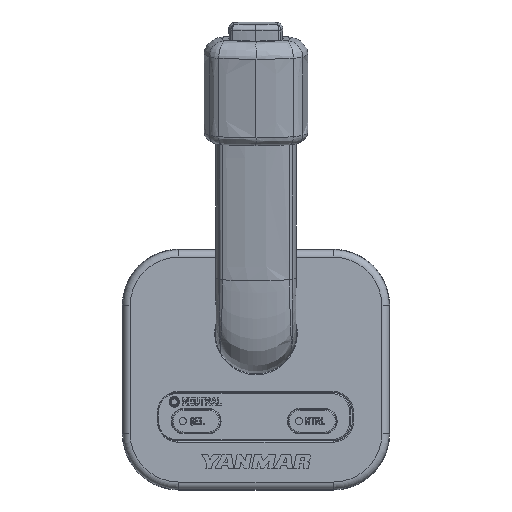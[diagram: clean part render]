
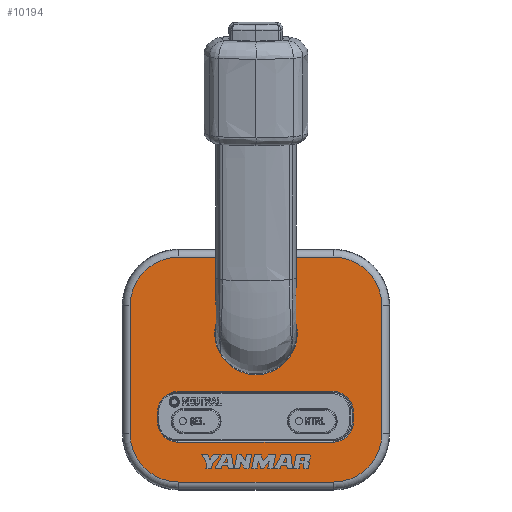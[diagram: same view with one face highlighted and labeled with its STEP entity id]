
A CAD part, top view. The second image highlights one B-rep face of the part: STEP entity #10194.
In plain terms, the highlighted planar face has unit normal (0, 0, 1).
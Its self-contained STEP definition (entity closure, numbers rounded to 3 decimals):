
#9962=CARTESIAN_POINT('',(-32.,26.5,10.));
#9963=DIRECTION('',(0.,0.,-1.));
#9964=DIRECTION('',(-1.,0.,0.));
#9965=AXIS2_PLACEMENT_3D('',#9962,#9963,#9964);
#9967=DIRECTION('',(1.,0.,0.));
#9968=VECTOR('',#9967,64.);
#9969=CARTESIAN_POINT('',(-32.,46.5,10.));
#9970=LINE('',#9969,#9968);
#9971=CARTESIAN_POINT('',(32.,26.5,10.));
#9972=DIRECTION('',(0.,0.,-1.));
#9973=DIRECTION('',(0.,1.,0.));
#9974=AXIS2_PLACEMENT_3D('',#9971,#9972,#9973);
#9976=DIRECTION('',(0.,-1.,0.));
#9977=VECTOR('',#9976,53.);
#9978=CARTESIAN_POINT('',(52.,26.5,10.));
#9979=LINE('',#9978,#9977);
#9980=CARTESIAN_POINT('',(32.,-26.5,10.));
#9981=DIRECTION('',(0.,0.,-1.));
#9982=DIRECTION('',(1.,0.,0.));
#9983=AXIS2_PLACEMENT_3D('',#9980,#9981,#9982);
#9985=DIRECTION('',(-1.,0.,0.));
#9986=VECTOR('',#9985,64.);
#9987=CARTESIAN_POINT('',(32.,-46.5,10.));
#9988=LINE('',#9987,#9986);
#9989=CARTESIAN_POINT('',(-32.,-26.5,10.));
#9990=DIRECTION('',(0.,0.,-1.));
#9991=DIRECTION('',(0.,-1.,0.));
#9992=AXIS2_PLACEMENT_3D('',#9989,#9990,#9991);
#9994=DIRECTION('',(0.,1.,0.));
#9995=VECTOR('',#9994,53.);
#9996=CARTESIAN_POINT('',(-52.,-26.5,10.));
#9997=LINE('',#9996,#9995);
#9998=CARTESIAN_POINT('',(31.77,-17.5,10.));
#9999=DIRECTION('',(0.,0.,1.));
#10000=DIRECTION('',(1.,0.,0.));
#10001=AXIS2_PLACEMENT_3D('',#9998,#9999,#10000);
#10003=DIRECTION('',(-1.,0.,0.));
#10004=VECTOR('',#10003,63.872);
#10005=CARTESIAN_POINT('',(31.77,-9.,10.));
#10006=LINE('',#10005,#10004);
#10007=CARTESIAN_POINT('',(-32.102,-17.628,10.));
#10008=DIRECTION('',(0.,0.,1.));
#10009=DIRECTION('',(0.,1.,0.));
#10010=AXIS2_PLACEMENT_3D('',#10007,#10008,#10009);
#10012=DIRECTION('',(0.,-1.,0.));
#10013=VECTOR('',#10012,3.96);
#10014=CARTESIAN_POINT('',(-40.73,-17.628,10.));
#10015=LINE('',#10014,#10013);
#10016=CARTESIAN_POINT('',(-32.319,-21.588,10.));
#10017=DIRECTION('',(0.,0.,1.));
#10018=DIRECTION('',(-1.,0.,0.));
#10019=AXIS2_PLACEMENT_3D('',#10016,#10017,#10018);
#10021=DIRECTION('',(1.,0.,0.));
#10022=VECTOR('',#10021,64.209);
#10023=CARTESIAN_POINT('',(-32.319,-30.,10.));
#10024=LINE('',#10023,#10022);
#10025=CARTESIAN_POINT('',(31.89,-21.621,10.));
#10026=DIRECTION('',(0.,0.,1.));
#10027=DIRECTION('',(0.,-1.,0.));
#10028=AXIS2_PLACEMENT_3D('',#10025,#10026,#10027);
#10030=DIRECTION('',(0.,1.,0.));
#10031=VECTOR('',#10030,4.121);
#10032=CARTESIAN_POINT('',(40.27,-21.621,10.));
#10033=LINE('',#10032,#10031);
#10034=CARTESIAN_POINT('',(0.,15.,10.));
#10035=DIRECTION('',(0.,0.,1.));
#10036=DIRECTION('',(-1.,0.,0.));
#10037=AXIS2_PLACEMENT_3D('',#10034,#10035,#10036);
#10039=CARTESIAN_POINT('',(0.,15.,10.));
#10040=DIRECTION('',(0.,0.,1.));
#10041=DIRECTION('',(0.,-1.,0.));
#10042=AXIS2_PLACEMENT_3D('',#10039,#10040,#10041);
#10044=CARTESIAN_POINT('',(0.,15.,10.));
#10045=DIRECTION('',(0.,0.,1.));
#10046=DIRECTION('',(1.,0.,0.));
#10047=AXIS2_PLACEMENT_3D('',#10044,#10045,#10046);
#10049=DIRECTION('',(0.,1.,0.));
#10050=VECTOR('',#10049,0.91);
#10051=CARTESIAN_POINT('',(6.596,30.772,10.));
#10052=LINE('',#10051,#10050);
#10053=CARTESIAN_POINT('',(6.596,31.683,10.));
#10054=CARTESIAN_POINT('',(6.596,31.766,10.));
#10055=CARTESIAN_POINT('',(6.576,31.929,10.));
#10056=CARTESIAN_POINT('',(6.483,32.166,10.));
#10057=CARTESIAN_POINT('',(6.337,32.37,10.));
#10058=CARTESIAN_POINT('',(6.141,32.533,10.));
#10059=CARTESIAN_POINT('',(5.994,32.604,10.));
#10060=CARTESIAN_POINT('',(5.914,32.631,10.));
#10062=CARTESIAN_POINT('',(0.,15.,10.));
#10063=DIRECTION('',(0.,0.,1.));
#10064=DIRECTION('',(0.318,0.948,0.));
#10065=AXIS2_PLACEMENT_3D('',#10062,#10063,#10064);
#10067=CARTESIAN_POINT('',(-5.914,32.631,10.));
#10068=CARTESIAN_POINT('',(-5.994,32.604,10.));
#10069=CARTESIAN_POINT('',(-6.141,32.533,10.));
#10070=CARTESIAN_POINT('',(-6.337,32.37,10.));
#10071=CARTESIAN_POINT('',(-6.483,32.166,10.));
#10072=CARTESIAN_POINT('',(-6.576,31.929,10.));
#10073=CARTESIAN_POINT('',(-6.596,31.766,10.));
#10074=CARTESIAN_POINT('',(-6.596,31.683,10.));
#10076=DIRECTION('',(0.,-1.,0.));
#10077=VECTOR('',#10076,0.91);
#10078=CARTESIAN_POINT('',(-6.596,31.683,10.));
#10079=LINE('',#10078,#10077);
#10080=CARTESIAN_POINT('',(0.,15.,10.));
#10081=DIRECTION('',(0.,0.,1.));
#10082=DIRECTION('',(-0.386,0.923,0.));
#10083=AXIS2_PLACEMENT_3D('',#10080,#10081,#10082);
#10085=CARTESIAN_POINT('',(-32.,46.5,10.));
#10086=CARTESIAN_POINT('',(-52.,26.5,10.));
#10087=VERTEX_POINT('',#10085);
#10088=VERTEX_POINT('',#10086);
#10089=CARTESIAN_POINT('',(-52.,-26.5,10.));
#10090=VERTEX_POINT('',#10089);
#10091=CARTESIAN_POINT('',(-32.,-46.5,10.));
#10092=VERTEX_POINT('',#10091);
#10093=CARTESIAN_POINT('',(32.,-46.5,10.));
#10094=VERTEX_POINT('',#10093);
#10095=CARTESIAN_POINT('',(52.,-26.5,10.));
#10096=VERTEX_POINT('',#10095);
#10097=CARTESIAN_POINT('',(52.,26.5,10.));
#10098=VERTEX_POINT('',#10097);
#10099=CARTESIAN_POINT('',(32.,46.5,10.));
#10100=VERTEX_POINT('',#10099);
#10101=CARTESIAN_POINT('',(31.77,-9.,10.));
#10102=CARTESIAN_POINT('',(40.27,-17.5,10.));
#10103=VERTEX_POINT('',#10101);
#10104=VERTEX_POINT('',#10102);
#10105=CARTESIAN_POINT('',(40.27,-21.621,10.));
#10106=VERTEX_POINT('',#10105);
#10107=CARTESIAN_POINT('',(31.89,-30.,10.));
#10108=VERTEX_POINT('',#10107);
#10109=CARTESIAN_POINT('',(-32.319,-30.,10.));
#10110=VERTEX_POINT('',#10109);
#10111=CARTESIAN_POINT('',(-40.73,-21.588,10.));
#10112=VERTEX_POINT('',#10111);
#10113=CARTESIAN_POINT('',(-40.73,-17.628,10.));
#10114=VERTEX_POINT('',#10113);
#10115=CARTESIAN_POINT('',(-32.102,-9.,10.));
#10116=VERTEX_POINT('',#10115);
#10117=CARTESIAN_POINT('',(0.,-2.096,10.));
#10118=CARTESIAN_POINT('',(-17.096,15.,10.));
#10119=VERTEX_POINT('',#10117);
#10120=VERTEX_POINT('',#10118);
#10121=CARTESIAN_POINT('',(-6.596,30.772,10.));
#10122=VERTEX_POINT('',#10121);
#10123=CARTESIAN_POINT('',(-6.596,31.683,10.));
#10124=VERTEX_POINT('',#10123);
#10125=VERTEX_POINT('',#10067);
#10126=CARTESIAN_POINT('',(5.914,32.631,10.));
#10127=VERTEX_POINT('',#10126);
#10128=VERTEX_POINT('',#10053);
#10129=CARTESIAN_POINT('',(6.596,30.772,10.));
#10130=VERTEX_POINT('',#10129);
#10131=CARTESIAN_POINT('',(17.096,15.,10.));
#10132=VERTEX_POINT('',#10131);
#10133=CARTESIAN_POINT('',(0.,0.,10.));
#10134=DIRECTION('',(0.,0.,1.));
#10135=DIRECTION('',(1.,0.,0.));
#10136=AXIS2_PLACEMENT_3D('',#10133,#10134,#10135);
#10137=PLANE('',#10136);
#10139=ORIENTED_EDGE('',*,*,#10138,.T.);
#10141=ORIENTED_EDGE('',*,*,#10140,.T.);
#10143=ORIENTED_EDGE('',*,*,#10142,.T.);
#10145=ORIENTED_EDGE('',*,*,#10144,.T.);
#10147=ORIENTED_EDGE('',*,*,#10146,.T.);
#10149=ORIENTED_EDGE('',*,*,#10148,.T.);
#10151=ORIENTED_EDGE('',*,*,#10150,.T.);
#10153=ORIENTED_EDGE('',*,*,#10152,.T.);
#10154=EDGE_LOOP('',(#10139,#10141,#10143,#10145,#10147,#10149,#10151,#10153));
#10155=FACE_OUTER_BOUND('',#10154,.F.);
#10157=ORIENTED_EDGE('',*,*,#10156,.T.);
#10159=ORIENTED_EDGE('',*,*,#10158,.T.);
#10161=ORIENTED_EDGE('',*,*,#10160,.T.);
#10163=ORIENTED_EDGE('',*,*,#10162,.T.);
#10165=ORIENTED_EDGE('',*,*,#10164,.T.);
#10167=ORIENTED_EDGE('',*,*,#10166,.T.);
#10169=ORIENTED_EDGE('',*,*,#10168,.T.);
#10171=ORIENTED_EDGE('',*,*,#10170,.T.);
#10172=EDGE_LOOP('',(#10157,#10159,#10161,#10163,#10165,#10167,#10169,#10171));
#10173=FACE_BOUND('',#10172,.F.);
#10175=ORIENTED_EDGE('',*,*,#10174,.T.);
#10177=ORIENTED_EDGE('',*,*,#10176,.T.);
#10179=ORIENTED_EDGE('',*,*,#10178,.T.);
#10181=ORIENTED_EDGE('',*,*,#10180,.T.);
#10183=ORIENTED_EDGE('',*,*,#10182,.T.);
#10185=ORIENTED_EDGE('',*,*,#10184,.T.);
#10187=ORIENTED_EDGE('',*,*,#10186,.T.);
#10189=ORIENTED_EDGE('',*,*,#10188,.T.);
#10191=ORIENTED_EDGE('',*,*,#10190,.T.);
#10192=EDGE_LOOP('',(#10175,#10177,#10179,#10181,#10183,#10185,#10187,#10189,
#10191));
#10193=FACE_BOUND('',#10192,.F.);
#10194=ADVANCED_FACE('',(#10155,#10173,#10193),#10137,.T.);
#9966=CIRCLE('',#9965,20.);
#9975=CIRCLE('',#9974,20.);
#9984=CIRCLE('',#9983,20.);
#9993=CIRCLE('',#9992,20.);
#10002=CIRCLE('',#10001,8.5);
#10011=CIRCLE('',#10010,8.628);
#10020=CIRCLE('',#10019,8.412);
#10029=CIRCLE('',#10028,8.379);
#10038=CIRCLE('',#10037,17.096);
#10043=CIRCLE('',#10042,17.096);
#10048=CIRCLE('',#10047,17.096);
#10061=B_SPLINE_CURVE_WITH_KNOTS('',3,(#10053,#10054,#10055,#10056,#10057,
#10058,#10059,#10060),.UNSPECIFIED.,.F.,.F.,(4,1,1,1,1,4),(0.,0.2,0.4,
0.6,0.8,1.),.UNSPECIFIED.);
#10066=CIRCLE('',#10065,18.596);
#10075=B_SPLINE_CURVE_WITH_KNOTS('',3,(#10067,#10068,#10069,#10070,#10071,
#10072,#10073,#10074),.UNSPECIFIED.,.F.,.F.,(4,1,1,1,1,4),(0.,0.2,0.4,
0.6,0.8,1.),.UNSPECIFIED.);
#10084=CIRCLE('',#10083,17.096);
#10138=EDGE_CURVE('',#10088,#10087,#9966,.T.);
#10140=EDGE_CURVE('',#10087,#10100,#9970,.T.);
#10142=EDGE_CURVE('',#10100,#10098,#9975,.T.);
#10144=EDGE_CURVE('',#10098,#10096,#9979,.T.);
#10146=EDGE_CURVE('',#10096,#10094,#9984,.T.);
#10148=EDGE_CURVE('',#10094,#10092,#9988,.T.);
#10150=EDGE_CURVE('',#10092,#10090,#9993,.T.);
#10152=EDGE_CURVE('',#10090,#10088,#9997,.T.);
#10156=EDGE_CURVE('',#10104,#10103,#10002,.T.);
#10158=EDGE_CURVE('',#10103,#10116,#10006,.T.);
#10160=EDGE_CURVE('',#10116,#10114,#10011,.T.);
#10162=EDGE_CURVE('',#10114,#10112,#10015,.T.);
#10164=EDGE_CURVE('',#10112,#10110,#10020,.T.);
#10166=EDGE_CURVE('',#10110,#10108,#10024,.T.);
#10168=EDGE_CURVE('',#10108,#10106,#10029,.T.);
#10170=EDGE_CURVE('',#10106,#10104,#10033,.T.);
#10174=EDGE_CURVE('',#10120,#10119,#10038,.T.);
#10176=EDGE_CURVE('',#10119,#10132,#10043,.T.);
#10178=EDGE_CURVE('',#10132,#10130,#10048,.T.);
#10180=EDGE_CURVE('',#10130,#10128,#10052,.T.);
#10182=EDGE_CURVE('',#10128,#10127,#10061,.T.);
#10184=EDGE_CURVE('',#10127,#10125,#10066,.T.);
#10186=EDGE_CURVE('',#10125,#10124,#10075,.T.);
#10188=EDGE_CURVE('',#10124,#10122,#10079,.T.);
#10190=EDGE_CURVE('',#10122,#10120,#10084,.T.);
